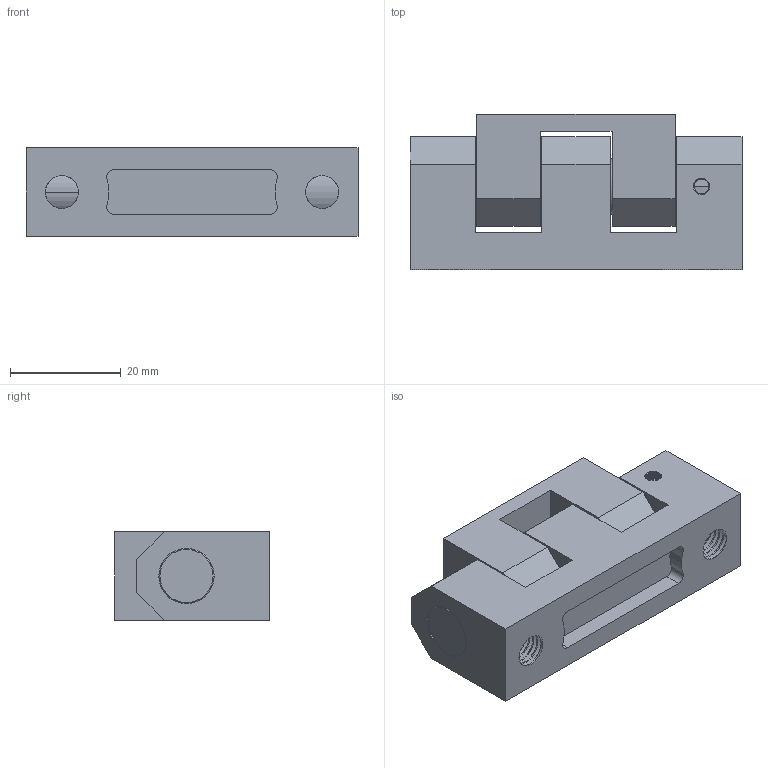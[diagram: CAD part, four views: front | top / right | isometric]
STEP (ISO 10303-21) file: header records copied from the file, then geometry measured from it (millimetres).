
FILE_DESCRIPTION (( 'STEP AP203' ), '1' );
FILE_NAME ('XG02-002-3STEP.STEP', '2023-12-06T00:38:26', ( '' ), ( '' ), 'SwSTEP 2.0', 'SolidWorks 2020', '' );
FILE_SCHEMA (( 'CONFIG_CONTROL_DESIGN' ));
Length unit declared in the file: millimetre
Products named in the file (1): XG02-002-3STEP
Bounding box: 60 x 28 x 16 mm (x, y, z)
Volume: 22645.6 mm3; surface area: 13044.5 mm2
Topology: 3 solids, 3 shells, 267 faces, 758 edges, 496 vertices
Faces by surface type: cylinder 184, plane 50, bspline 25, cone 8
Entity records: 24996 total; most frequent: CARTESIAN_POINT 19150, ORIENTED_EDGE 1508, DIRECTION 906, EDGE_CURVE 754, VERTEX_POINT 496, VECTOR 304, LINE 304, AXIS2_PLACEMENT_3D 301
